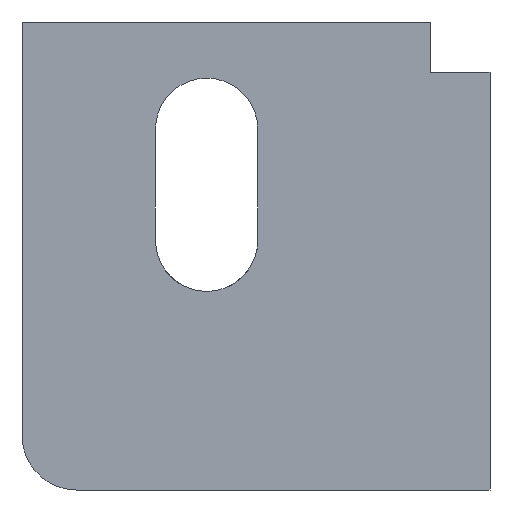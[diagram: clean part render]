
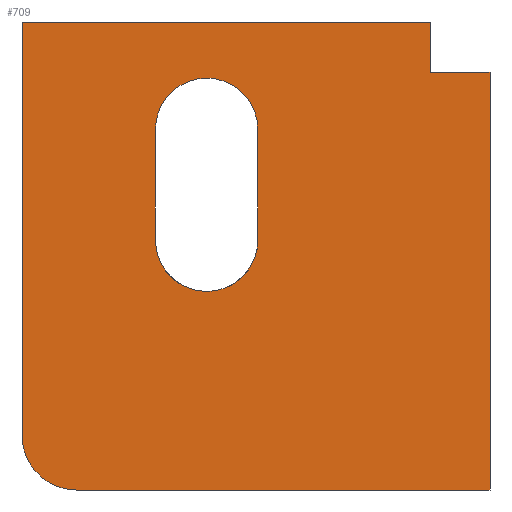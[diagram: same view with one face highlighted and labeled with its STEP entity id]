
A CAD part, left-side view. The second image highlights one B-rep face of the part: STEP entity #709.
In plain terms, the highlighted planar face has unit normal (-1, 0, 0).
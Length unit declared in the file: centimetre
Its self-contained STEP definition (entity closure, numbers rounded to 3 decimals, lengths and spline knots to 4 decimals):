
#16 = EDGE_CURVE ( 'NONE', #438, #159, #708, .T. ) ;
#20 = DIRECTION ( 'NONE',  ( 0., 0., 1. ) ) ;
#28 = AXIS2_PLACEMENT_3D ( 'NONE', #730, #981, #1314 ) ;
#39 = VERTEX_POINT ( 'NONE', #1301 ) ;
#46 = EDGE_CURVE ( 'NONE', #1009, #438, #1293, .T. ) ;
#59 = LINE ( 'NONE', #510, #712 ) ;
#66 = CARTESIAN_POINT ( 'NONE',  ( 0., 496.1262, 770.6427 ) ) ;
#107 = VERTEX_POINT ( 'NONE', #1200 ) ;
#126 = CARTESIAN_POINT ( 'NONE',  ( 0., 0., 892.3856 ) ) ;
#128 = EDGE_CURVE ( 'NONE', #310, #39, #1418, .T. ) ;
#131 = LINE ( 'NONE', #373, #765 ) ;
#135 = EDGE_CURVE ( 'NONE', #1235, #310, #189, .T. ) ;
#142 = EDGE_LOOP ( 'NONE', ( #899, #940, #303, #809, #327 ) ) ;
#159 = VERTEX_POINT ( 'NONE', #1056 ) ;
#162 = AXIS2_PLACEMENT_3D ( 'NONE', #514, #540, #1080 ) ;
#189 = CIRCLE ( 'NONE', #571, 109.3607 ) ;
#241 = CARTESIAN_POINT ( 'NONE',  ( 0., 128.0251, 892.3856 ) ) ;
#261 = VERTEX_POINT ( 'NONE', #126 ) ;
#264 = VECTOR ( 'NONE', #20, 100. ) ;
#278 = EDGE_CURVE ( 'NONE', #864, #107, #677, .T. ) ;
#281 = CARTESIAN_POINT ( 'NONE',  ( 0., 714.8476, 770.6427 ) ) ;
#284 = PLANE ( 'NONE',  #1210 ) ;
#285 = EDGE_CURVE ( 'NONE', #1009, #107, #1257, .T. ) ;
#287 = CARTESIAN_POINT ( 'NONE',  ( 0., 128.0251, 892.3856 ) ) ;
#299 = DIRECTION ( 'NONE',  ( 0., 0., -1. ) ) ;
#303 = ORIENTED_EDGE ( 'NONE', *, *, #135, .T. ) ;
#310 = VERTEX_POINT ( 'NONE', #1189 ) ;
#327 = ORIENTED_EDGE ( 'NONE', *, *, #858, .T. ) ;
#337 = CARTESIAN_POINT ( 'NONE',  ( 0., 0., 0. ) ) ;
#345 = ORIENTED_EDGE ( 'NONE', *, *, #46, .T. ) ;
#357 = DIRECTION ( 'NONE',  ( 0., 0., -1. ) ) ;
#373 = CARTESIAN_POINT ( 'NONE',  ( 0., 0., 1000. ) ) ;
#395 = FACE_BOUND ( 'NONE', #142, .T. ) ;
#404 = VECTOR ( 'NONE', #299, 100. ) ;
#415 = DIRECTION ( 'NONE',  ( 0., -1., 0. ) ) ;
#423 = ORIENTED_EDGE ( 'NONE', *, *, #278, .T. ) ;
#438 = VERTEX_POINT ( 'NONE', #1433 ) ;
#447 = CARTESIAN_POINT ( 'NONE',  ( 0., 496.1262, 533.6066 ) ) ;
#456 = EDGE_CURVE ( 'NONE', #814, #601, #997, .T. ) ;
#458 = VERTEX_POINT ( 'NONE', #337 ) ;
#462 = CARTESIAN_POINT ( 'NONE',  ( 0., 1000., 1000. ) ) ;
#468 = DIRECTION ( 'NONE',  ( 0., -1., 0. ) ) ;
#510 = CARTESIAN_POINT ( 'NONE',  ( 0., 128.0251, 892.3856 ) ) ;
#514 = CARTESIAN_POINT ( 'NONE',  ( 0., 883.3157, 116.6843 ) ) ;
#540 = DIRECTION ( 'NONE',  ( -1., 0., 0. ) ) ;
#541 = AXIS2_PLACEMENT_3D ( 'NONE', #602, #1050, #842 ) ;
#561 = EDGE_CURVE ( 'NONE', #261, #458, #131, .T. ) ;
#571 = AXIS2_PLACEMENT_3D ( 'NONE', #1402, #1277, #1300 ) ;
#586 = CARTESIAN_POINT ( 'NONE',  ( 0., 496.1262, 533.6066 ) ) ;
#601 = VERTEX_POINT ( 'NONE', #586 ) ;
#602 = CARTESIAN_POINT ( 'NONE',  ( 0., 605.4869, 533.6066 ) ) ;
#608 = CIRCLE ( 'NONE', #541, 109.3607 ) ;
#640 = CARTESIAN_POINT ( 'NONE',  ( 0., 1000., 1000. ) ) ;
#677 = LINE ( 'NONE', #241, #264 ) ;
#683 = VECTOR ( 'NONE', #1191, 100. ) ;
#684 = VECTOR ( 'NONE', #468, 100. ) ;
#708 = CIRCLE ( 'NONE', #162, 116.6843 ) ;
#709 = ADVANCED_FACE ( 'NONE', ( #395, #1295 ), #284, .F. ) ;
#712 = VECTOR ( 'NONE', #866, 100. ) ;
#730 = CARTESIAN_POINT ( 'NONE',  ( 0., 605.4869, 770.6427 ) ) ;
#736 = CARTESIAN_POINT ( 'NONE',  ( 0., 1000., 1000. ) ) ;
#765 = VECTOR ( 'NONE', #357, 100. ) ;
#768 = DIRECTION ( 'NONE',  ( 0., 0., -1. ) ) ;
#809 = ORIENTED_EDGE ( 'NONE', *, *, #128, .T. ) ;
#814 = VERTEX_POINT ( 'NONE', #66 ) ;
#842 = DIRECTION ( 'NONE',  ( 0., 0., 1. ) ) ;
#858 = EDGE_CURVE ( 'NONE', #39, #814, #1134, .T. ) ;
#864 = VERTEX_POINT ( 'NONE', #287 ) ;
#866 = DIRECTION ( 'NONE',  ( 0., -1., 0. ) ) ;
#886 = EDGE_CURVE ( 'NONE', #159, #458, #1179, .T. ) ;
#899 = ORIENTED_EDGE ( 'NONE', *, *, #456, .T. ) ;
#908 = EDGE_CURVE ( 'NONE', #864, #261, #59, .T. ) ;
#922 = ORIENTED_EDGE ( 'NONE', *, *, #16, .T. ) ;
#940 = ORIENTED_EDGE ( 'NONE', *, *, #1242, .T. ) ;
#949 = CARTESIAN_POINT ( 'NONE',  ( 0., 605.4869, 424.2458 ) ) ;
#951 = ORIENTED_EDGE ( 'NONE', *, *, #561, .F. ) ;
#972 = DIRECTION ( 'NONE',  ( 1., 0., 0. ) ) ;
#981 = DIRECTION ( 'NONE',  ( 1., 0., 0. ) ) ;
#997 = LINE ( 'NONE', #447, #1323 ) ;
#1009 = VERTEX_POINT ( 'NONE', #1225 ) ;
#1050 = DIRECTION ( 'NONE',  ( 1., 0., 0. ) ) ;
#1056 = CARTESIAN_POINT ( 'NONE',  ( 0., 883.3157, 0. ) ) ;
#1080 = DIRECTION ( 'NONE',  ( 0., 0., -1. ) ) ;
#1134 = CIRCLE ( 'NONE', #28, 109.3607 ) ;
#1179 = LINE ( 'NONE', #1320, #1443 ) ;
#1189 = CARTESIAN_POINT ( 'NONE',  ( 0., 714.8476, 533.6066 ) ) ;
#1191 = DIRECTION ( 'NONE',  ( 0., 0., 1. ) ) ;
#1200 = CARTESIAN_POINT ( 'NONE',  ( 0., 128.0251, 1000. ) ) ;
#1210 = AXIS2_PLACEMENT_3D ( 'NONE', #736, #972, #768 ) ;
#1225 = CARTESIAN_POINT ( 'NONE',  ( 0., 1000., 1000. ) ) ;
#1235 = VERTEX_POINT ( 'NONE', #949 ) ;
#1242 = EDGE_CURVE ( 'NONE', #601, #1235, #608, .T. ) ;
#1257 = LINE ( 'NONE', #462, #684 ) ;
#1277 = DIRECTION ( 'NONE',  ( 1., 0., 0. ) ) ;
#1279 = ORIENTED_EDGE ( 'NONE', *, *, #908, .F. ) ;
#1293 = LINE ( 'NONE', #640, #404 ) ;
#1295 = FACE_OUTER_BOUND ( 'NONE', #1449, .T. ) ;
#1300 = DIRECTION ( 'NONE',  ( 0., 0., 1. ) ) ;
#1301 = CARTESIAN_POINT ( 'NONE',  ( 0., 714.8476, 770.6427 ) ) ;
#1314 = DIRECTION ( 'NONE',  ( 0., 0., 1. ) ) ;
#1320 = CARTESIAN_POINT ( 'NONE',  ( 0., 1000., 0. ) ) ;
#1323 = VECTOR ( 'NONE', #1345, 100. ) ;
#1342 = ORIENTED_EDGE ( 'NONE', *, *, #886, .T. ) ;
#1345 = DIRECTION ( 'NONE',  ( 0., 0., -1. ) ) ;
#1402 = CARTESIAN_POINT ( 'NONE',  ( 0., 605.4869, 533.6066 ) ) ;
#1418 = LINE ( 'NONE', #281, #683 ) ;
#1419 = ORIENTED_EDGE ( 'NONE', *, *, #285, .F. ) ;
#1433 = CARTESIAN_POINT ( 'NONE',  ( 0., 1000., 116.6843 ) ) ;
#1443 = VECTOR ( 'NONE', #415, 100. ) ;
#1449 = EDGE_LOOP ( 'NONE', ( #1279, #423, #1419, #345, #922, #1342, #951 ) ) ;
